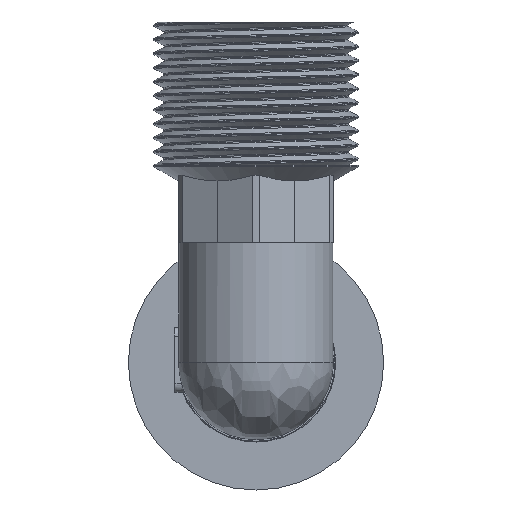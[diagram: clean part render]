
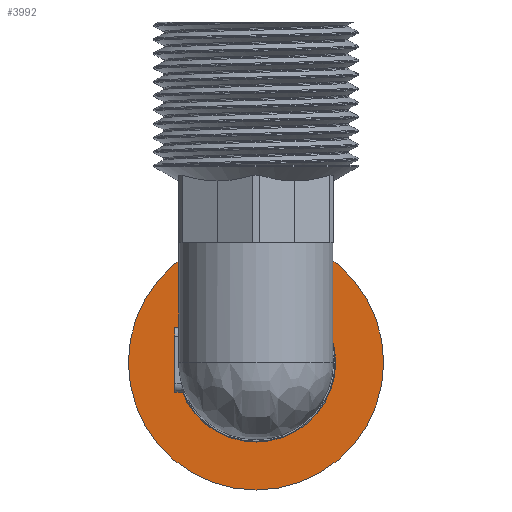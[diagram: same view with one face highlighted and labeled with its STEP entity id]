
A CAD part, front view. The second image highlights one B-rep face of the part: STEP entity #3992.
In plain terms, the highlighted planar face has unit normal (0, -1, 0).
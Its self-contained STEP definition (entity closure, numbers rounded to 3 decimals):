
#178=PLANE('',#4306);
#218=FACE_BOUND('',#613,.T.);
#382=FACE_OUTER_BOUND('',#612,.T.);
#612=EDGE_LOOP('',(#3474,#3475));
#613=EDGE_LOOP('',(#3476,#3477));
#805=CIRCLE('',#4292,10.3);
#806=CIRCLE('',#4293,10.3);
#811=CIRCLE('',#4304,16.5);
#812=CIRCLE('',#4305,16.5);
#1864=VERTEX_POINT('',#8019);
#1865=VERTEX_POINT('',#8021);
#1866=VERTEX_POINT('',#8035);
#1867=VERTEX_POINT('',#8036);
#2419=EDGE_CURVE('',#1864,#1865,#805,.T.);
#2420=EDGE_CURVE('',#1865,#1864,#806,.T.);
#2426=EDGE_CURVE('',#1866,#1867,#811,.T.);
#2427=EDGE_CURVE('',#1867,#1866,#812,.T.);
#3474=ORIENTED_EDGE('',*,*,#2426,.T.);
#3475=ORIENTED_EDGE('',*,*,#2427,.T.);
#3476=ORIENTED_EDGE('',*,*,#2420,.F.);
#3477=ORIENTED_EDGE('',*,*,#2419,.F.);
#3992=ADVANCED_FACE('',(#382,#218),#178,.T.);
#4292=AXIS2_PLACEMENT_3D('',#8022,#4990,#4991);
#4293=AXIS2_PLACEMENT_3D('',#8023,#4992,#4993);
#4304=AXIS2_PLACEMENT_3D('',#8037,#5015,#5016);
#4305=AXIS2_PLACEMENT_3D('',#8038,#5017,#5018);
#4306=AXIS2_PLACEMENT_3D('',#8040,#5020,#5021);
#4990=DIRECTION('center_axis',(0.,-1.,0.));
#4991=DIRECTION('ref_axis',(1.,0.,0.));
#4992=DIRECTION('center_axis',(0.,-1.,0.));
#4993=DIRECTION('ref_axis',(1.,0.,0.));
#5015=DIRECTION('center_axis',(0.,-1.,0.));
#5016=DIRECTION('ref_axis',(1.,0.,0.));
#5017=DIRECTION('center_axis',(0.,-1.,0.));
#5018=DIRECTION('ref_axis',(1.,0.,0.));
#5020=DIRECTION('center_axis',(0.,-1.,0.));
#5021=DIRECTION('ref_axis',(0.,0.,-1.));
#8019=CARTESIAN_POINT('',(0.,-28.501,-10.3));
#8021=CARTESIAN_POINT('',(0.,-28.501,10.3));
#8022=CARTESIAN_POINT('Origin',(0.,-28.501,0.));
#8023=CARTESIAN_POINT('Origin',(0.,-28.501,0.));
#8035=CARTESIAN_POINT('',(0.,-28.501,16.5));
#8036=CARTESIAN_POINT('',(0.,-28.501,-16.5));
#8037=CARTESIAN_POINT('Origin',(0.,-28.501,0.));
#8038=CARTESIAN_POINT('Origin',(0.,-28.501,0.));
#8040=CARTESIAN_POINT('Origin',(0.,-28.501,10.3));
